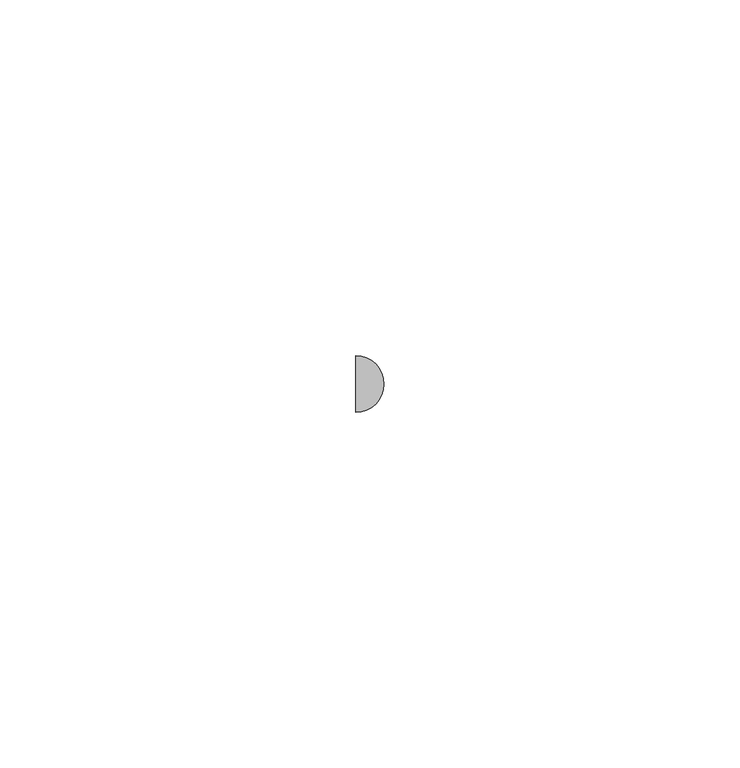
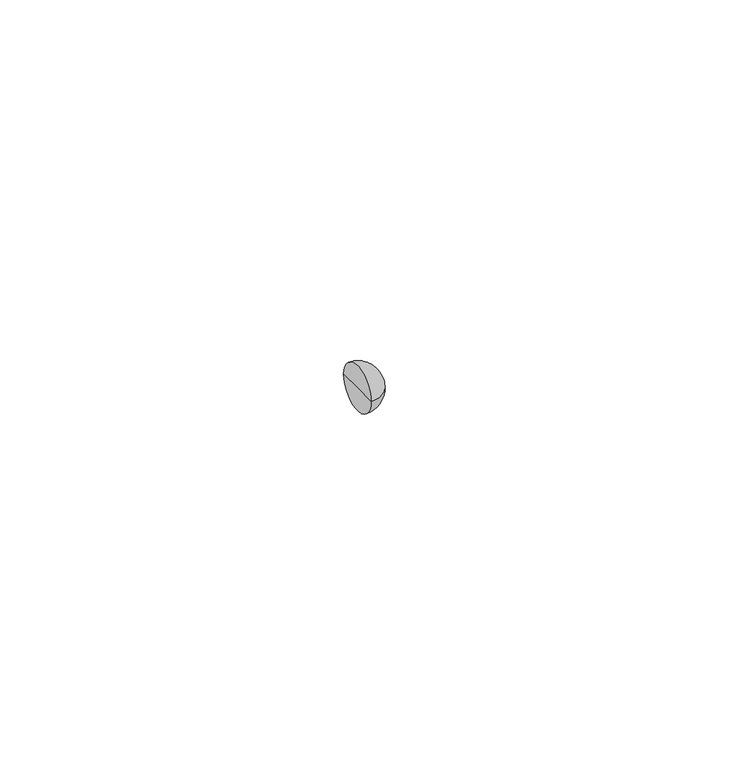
"""IFC4 building model written with IfcOpenShell, lengths in millimetres: pipe fitting geometry, UN_PIF_PP bend 2x45° S-S-S-Sp_PipeLife : Black, var. DN/OD (max. ø125)."""

from ifc_helpers import new_model, si_unit, point, frame, origin, place, context, project, spatial, circle_curve, ellipse_curve, trimmed, source, transform, mapped, element, save
from ifc_brep_helpers import plane_surface, revolved_surface, advanced_brep


def pipe_fitting_5d0570f1(model_context):
    return source(origin(), model_context, "Body", "AdvancedBrep", [
        advanced_brep(
        [(-111.4386002, 0.0, 0.0), (-111.4386002, 4.0, 0.0), (-111.4386002, -4.0, 0.0), (-107.4386002, 0.0, 0.0)],
        [
            (0, 1),
            (1, 2, circle_curve(frame((-111.4386002, 0.0, 0.0), z_axis=(-1.0, 0.0, 0.0), x_axis=(0.0, 1.0, 0.0)), 4.0)),
            (2, 0),
            (2, 1, circle_curve(frame((-111.4386002, 0.0, 0.0), z_axis=(-1.0, 0.0, 0.0), x_axis=(0.0, 1.0, 0.0)), 4.0)),
            (1, 3, circle_curve(frame((-111.4386002, 0.0, 0.0), z_axis=(0.0, 0.0, -1.0), x_axis=(1.0, 0.0, 0.0)), 4.0)),
            (3, 2, circle_curve(frame((-111.4386002, 0.0, 0.0), z_axis=(0.0, 0.0, -1.0), x_axis=(1.0, 0.0, 0.0)), 4.0)),
        ],
        [
            plane_surface(frame((-111.4386002, 0.0, 0.0), z_axis=(-1.0, 0.0, 0.0), x_axis=(0.0, 1.0, 0.0))),
            revolved_surface(trimmed(ellipse_curve(frame((-111.4386002, 0.0, 0.0), z_axis=(0.0, 0.0, 1.0), x_axis=(1.0, 0.0, 0.0)), 4.0, 4.0), [point((-107.4386002, 0.0, 0.0))], [point((-111.4386002, 4.0, 0.0))], True, "CARTESIAN"), (-8.4572071, 0.0, 0.0), (-1.0, 0.0, 0.0)),
        ],
        [
            (0, [[1, 2, 3]]),
            (0, [[-3, 4, -1]]),
            (1, [[-2, 5, 6]]),
            (1, [[-4, -6, -5]]),
        ],
    ),
    ])


if __name__ == "__main__":
    model = new_model("IFC4")
    model_context = context("Model", 3, world=origin())
    ifc_project = project(units=[si_unit("LENGTHUNIT", "METRE", prefix="MILLI")], contexts=[model_context])
    site = spatial("IfcSite", under=ifc_project)
    building = spatial("IfcBuilding", under=site)
    placement = place(None, origin())
    pipe_fitting_shape = pipe_fitting_5d0570f1(model_context)
    element("IfcPipeFitting", 1, ObjectType="UN_PIF_PP bend 2x45° S-S-S-Sp_PipeLife : Black, var. DN/OD (max. ø125)", at=placement, inside=building, context=model_context, shape_type="MappedRepresentation", body=[
        mapped(pipe_fitting_shape, transform((0.0, 0.0, 0.0), x_axis=(1.0, 0.0, 0.0), y_axis=(0.0, 1.0, 0.0), z_axis=(0.0, 0.0, 1.0))),
    ])
    save(model, "model.ifc")
